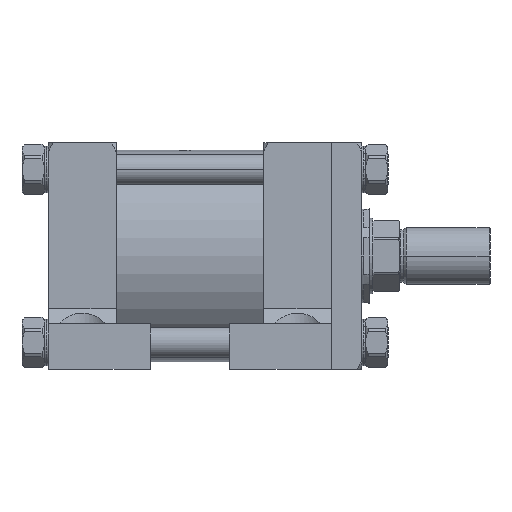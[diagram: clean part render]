
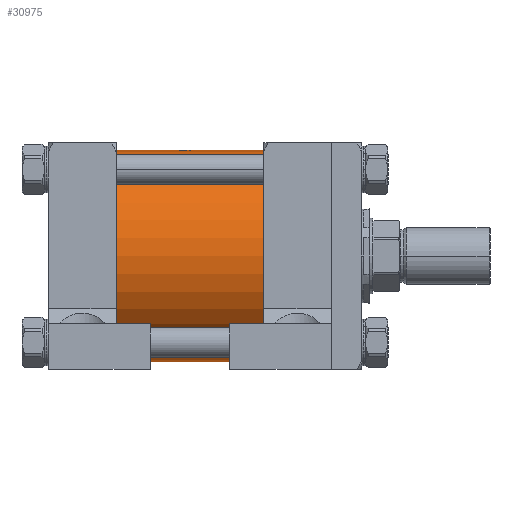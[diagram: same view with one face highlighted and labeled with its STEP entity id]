
A CAD part, front view. The second image highlights one B-rep face of the part: STEP entity #30975.
In plain terms, the highlighted cylindrical face has radius 88.9 mm (diameter 177.8 mm), a partial arc.
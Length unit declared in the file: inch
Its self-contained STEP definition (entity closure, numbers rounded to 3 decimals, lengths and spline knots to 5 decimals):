
#362 = LINE ( 'NONE', #57610, #32900 ) ;
#488 = CARTESIAN_POINT ( 'NONE',  ( -4.25, 0., 3.5 ) ) ;
#1633 = FACE_OUTER_BOUND ( 'NONE', #53120, .T. ) ;
#1822 = AXIS2_PLACEMENT_3D ( 'NONE', #49387, #16217, #29976 ) ;
#3894 = AXIS2_PLACEMENT_3D ( 'NONE', #35653, #40046, #11320 ) ;
#5055 = VERTEX_POINT ( 'NONE', #28175 ) ;
#10129 = ORIENTED_EDGE ( 'NONE', *, *, #18608, .F. ) ;
#10163 = EDGE_CURVE ( 'NONE', #59156, #48656, #362, .T. ) ;
#10165 = CIRCLE ( 'NONE', #55101, 3.5 ) ;
#11320 = DIRECTION ( 'NONE',  ( 0., 0., -1. ) ) ;
#16217 = DIRECTION ( 'NONE',  ( 1., 0., 0. ) ) ;
#18608 = EDGE_CURVE ( 'NONE', #48656, #5055, #10165, .T. ) ;
#20689 = CYLINDRICAL_SURFACE ( 'NONE', #3894, 3.5 ) ;
#21586 = VERTEX_POINT ( 'NONE', #30935 ) ;
#28175 = CARTESIAN_POINT ( 'NONE',  ( -4.25, 0., -3.5 ) ) ;
#28829 = CIRCLE ( 'NONE', #1822, 3.5 ) ;
#29976 = DIRECTION ( 'NONE',  ( 0., 1., 0. ) ) ;
#30356 = DIRECTION ( 'NONE',  ( 1., 0., 0. ) ) ;
#30935 = CARTESIAN_POINT ( 'NONE',  ( -9.625, 0., -3.5 ) ) ;
#30975 = ADVANCED_FACE ( 'NONE', ( #1633 ), #20689, .T. ) ;
#32494 = CARTESIAN_POINT ( 'NONE',  ( -9.625, 0., 3.5 ) ) ;
#32900 = VECTOR ( 'NONE', #33786, 39.37008 ) ;
#33786 = DIRECTION ( 'NONE',  ( 1., 0., 0. ) ) ;
#35653 = CARTESIAN_POINT ( 'NONE',  ( -9.625, 0., 0. ) ) ;
#37510 = ORIENTED_EDGE ( 'NONE', *, *, #52166, .T. ) ;
#39883 = EDGE_CURVE ( 'NONE', #59156, #21586, #28829, .T. ) ;
#40046 = DIRECTION ( 'NONE',  ( 1., 0., 0. ) ) ;
#40180 = CARTESIAN_POINT ( 'NONE',  ( -9.625, 0., -3.5 ) ) ;
#40347 = ORIENTED_EDGE ( 'NONE', *, *, #39883, .T. ) ;
#44429 = ORIENTED_EDGE ( 'NONE', *, *, #10163, .F. ) ;
#48656 = VERTEX_POINT ( 'NONE', #488 ) ;
#49387 = CARTESIAN_POINT ( 'NONE',  ( -9.625, 0., 0. ) ) ;
#49467 = DIRECTION ( 'NONE',  ( 0., 1., 0. ) ) ;
#49652 = DIRECTION ( 'NONE',  ( 1., 0., 0. ) ) ;
#51490 = VECTOR ( 'NONE', #49652, 39.37008 ) ;
#52166 = EDGE_CURVE ( 'NONE', #21586, #5055, #59614, .T. ) ;
#53120 = EDGE_LOOP ( 'NONE', ( #44429, #40347, #37510, #10129 ) ) ;
#54463 = CARTESIAN_POINT ( 'NONE',  ( -4.25, 0., 0. ) ) ;
#55101 = AXIS2_PLACEMENT_3D ( 'NONE', #54463, #30356, #49467 ) ;
#57610 = CARTESIAN_POINT ( 'NONE',  ( -9.625, 0., 3.5 ) ) ;
#59156 = VERTEX_POINT ( 'NONE', #32494 ) ;
#59614 = LINE ( 'NONE', #40180, #51490 ) ;
